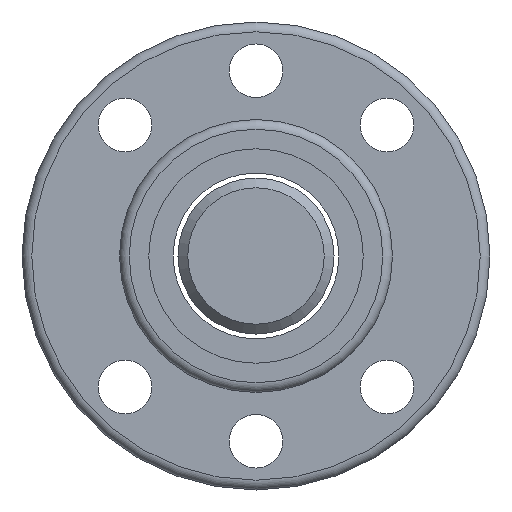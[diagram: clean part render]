
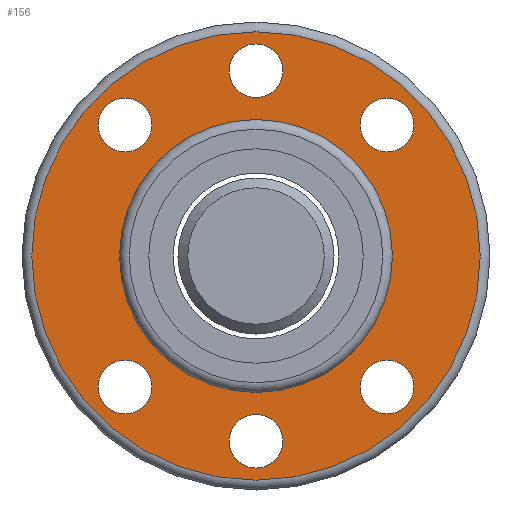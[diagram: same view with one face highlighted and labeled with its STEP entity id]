
A CAD part, left-side view. The second image highlights one B-rep face of the part: STEP entity #156.
In plain terms, the highlighted planar face has unit normal (-1, 0, 0).
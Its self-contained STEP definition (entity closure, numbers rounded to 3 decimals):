
#125=PLANE('',#537);
#136=FACE_OUTER_BOUND('',#275,.T.);
#156=ADVANCED_FACE('',(#204,#205,#206,#207,#208,#209,#136,#210),#125,.F.);
#204=FACE_BOUND('',#269,.T.);
#205=FACE_BOUND('',#270,.T.);
#206=FACE_BOUND('',#271,.T.);
#207=FACE_BOUND('',#272,.T.);
#208=FACE_BOUND('',#273,.T.);
#209=FACE_BOUND('',#274,.T.);
#210=FACE_BOUND('',#276,.T.);
#269=EDGE_LOOP('',(#343));
#270=EDGE_LOOP('',(#344));
#271=EDGE_LOOP('',(#345));
#272=EDGE_LOOP('',(#346));
#273=EDGE_LOOP('',(#347));
#274=EDGE_LOOP('',(#348));
#275=EDGE_LOOP('',(#349));
#276=EDGE_LOOP('',(#350));
#343=ORIENTED_EDGE('',*,*,#444,.T.);
#344=ORIENTED_EDGE('',*,*,#445,.T.);
#345=ORIENTED_EDGE('',*,*,#446,.T.);
#346=ORIENTED_EDGE('',*,*,#447,.T.);
#347=ORIENTED_EDGE('',*,*,#448,.T.);
#348=ORIENTED_EDGE('',*,*,#449,.T.);
#349=ORIENTED_EDGE('',*,*,#443,.F.);
#350=ORIENTED_EDGE('',*,*,#450,.T.);
#406=VERTEX_POINT('',#756);
#407=VERTEX_POINT('',#759);
#408=VERTEX_POINT('',#761);
#409=VERTEX_POINT('',#763);
#410=VERTEX_POINT('',#765);
#411=VERTEX_POINT('',#767);
#412=VERTEX_POINT('',#769);
#413=VERTEX_POINT('',#771);
#443=EDGE_CURVE('',#406,#406,#480,.T.);
#444=EDGE_CURVE('',#407,#407,#481,.T.);
#445=EDGE_CURVE('',#408,#408,#482,.T.);
#446=EDGE_CURVE('',#409,#409,#483,.T.);
#447=EDGE_CURVE('',#410,#410,#484,.T.);
#448=EDGE_CURVE('',#411,#411,#485,.T.);
#449=EDGE_CURVE('',#412,#412,#486,.T.);
#450=EDGE_CURVE('',#413,#413,#487,.T.);
#480=CIRCLE('',#528,23.);
#481=CIRCLE('',#530,2.75);
#482=CIRCLE('',#531,2.75);
#483=CIRCLE('',#532,2.75);
#484=CIRCLE('',#533,2.75);
#485=CIRCLE('',#534,2.75);
#486=CIRCLE('',#535,2.75);
#487=CIRCLE('',#536,14.);
#528=AXIS2_PLACEMENT_3D('',#755,#626,#627);
#530=AXIS2_PLACEMENT_3D('',#758,#630,#631);
#531=AXIS2_PLACEMENT_3D('',#760,#632,#633);
#532=AXIS2_PLACEMENT_3D('',#762,#634,#635);
#533=AXIS2_PLACEMENT_3D('',#764,#636,#637);
#534=AXIS2_PLACEMENT_3D('',#766,#638,#639);
#535=AXIS2_PLACEMENT_3D('',#768,#640,#641);
#536=AXIS2_PLACEMENT_3D('',#770,#642,#643);
#537=AXIS2_PLACEMENT_3D('',#772,#644,#645);
#626=DIRECTION('',(1.,0.,0.));
#627=DIRECTION('',(0.,1.,0.));
#630=DIRECTION('',(1.,0.,0.));
#631=DIRECTION('',(0.,1.,0.));
#632=DIRECTION('',(1.,0.,0.));
#633=DIRECTION('',(0.,1.,0.));
#634=DIRECTION('',(1.,0.,0.));
#635=DIRECTION('',(0.,1.,0.));
#636=DIRECTION('',(1.,0.,0.));
#637=DIRECTION('',(0.,1.,0.));
#638=DIRECTION('',(1.,0.,0.));
#639=DIRECTION('',(0.,1.,0.));
#640=DIRECTION('',(1.,0.,0.));
#641=DIRECTION('',(0.,1.,0.));
#642=DIRECTION('',(1.,0.,0.));
#643=DIRECTION('',(0.,1.,0.));
#644=DIRECTION('',(1.,0.,0.));
#645=DIRECTION('',(0.,1.,0.));
#755=CARTESIAN_POINT('',(-25.,0.,0.));
#756=CARTESIAN_POINT('',(-25.,23.,0.));
#758=CARTESIAN_POINT('',(-25.,0.,-19.));
#759=CARTESIAN_POINT('',(-25.,2.75,-19.));
#760=CARTESIAN_POINT('',(-25.,0.,19.));
#761=CARTESIAN_POINT('',(-25.,2.75,19.));
#762=CARTESIAN_POINT('',(-25.,13.44,-13.44));
#763=CARTESIAN_POINT('',(-25.,16.19,-13.44));
#764=CARTESIAN_POINT('',(-25.,-13.44,-13.44));
#765=CARTESIAN_POINT('',(-25.,-10.69,-13.44));
#766=CARTESIAN_POINT('',(-25.,-13.44,13.44));
#767=CARTESIAN_POINT('',(-25.,-10.69,13.44));
#768=CARTESIAN_POINT('',(-25.,13.44,13.44));
#769=CARTESIAN_POINT('',(-25.,16.19,13.44));
#770=CARTESIAN_POINT('',(-25.,0.,0.));
#771=CARTESIAN_POINT('',(-25.,14.,0.));
#772=CARTESIAN_POINT('',(-25.,18.5,0.));
